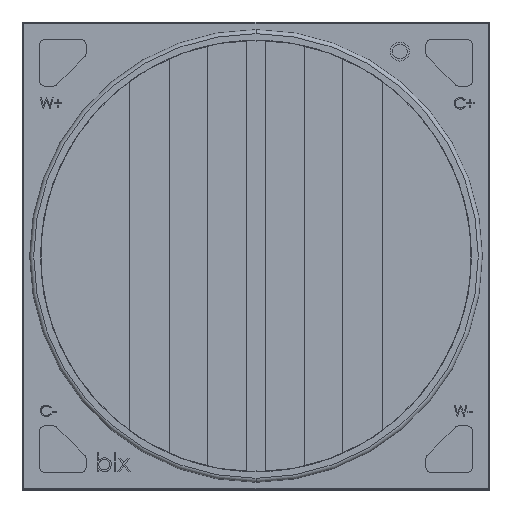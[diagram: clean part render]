
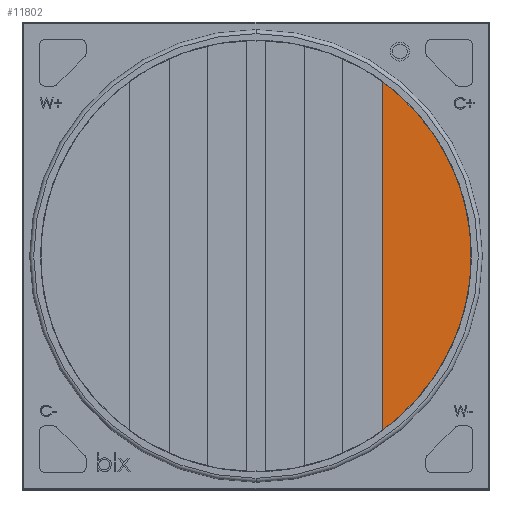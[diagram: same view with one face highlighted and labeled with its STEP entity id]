
A CAD part, top view. The second image highlights one B-rep face of the part: STEP entity #11802.
In plain terms, the highlighted planar face has unit normal (0, 0, 1).
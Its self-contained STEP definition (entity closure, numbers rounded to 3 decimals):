
#95 = CARTESIAN_POINT ( 'NONE',  ( 8.68, 11.947, 1.545 ) ) ;
#2584 = AXIS2_PLACEMENT_3D ( 'NONE', #4660, #9454, #9836 ) ;
#3580 = FACE_OUTER_BOUND ( 'NONE', #11175, .T. ) ;
#3772 = DIRECTION ( 'NONE',  ( 0., -1., 0. ) ) ;
#4660 = CARTESIAN_POINT ( 'NONE',  ( 0., 0., 1.545 ) ) ;
#7663 = AXIS2_PLACEMENT_3D ( 'NONE', #9122, #13012, #11890 ) ;
#7745 = VERTEX_POINT ( 'NONE', #12323 ) ;
#8284 = CIRCLE ( 'NONE', #2584, 14.768 ) ;
#8317 = LINE ( 'NONE', #8391, #13350 ) ;
#8391 = CARTESIAN_POINT ( 'NONE',  ( 8.68, 15.727, 1.545 ) ) ;
#9122 = CARTESIAN_POINT ( 'NONE',  ( 0., 0., 1.545 ) ) ;
#9454 = DIRECTION ( 'NONE',  ( 0., 0., 1. ) ) ;
#9836 = DIRECTION ( 'NONE',  ( 0., 1., 0. ) ) ;
#10167 = ORIENTED_EDGE ( 'NONE', *, *, #13268, .T. ) ;
#10694 = VERTEX_POINT ( 'NONE', #95 ) ;
#10932 = PLANE ( 'NONE',  #7663 ) ;
#11175 = EDGE_LOOP ( 'NONE', ( #10167, #12638 ) ) ;
#11802 = ADVANCED_FACE ( 'NONE', ( #3580 ), #10932, .T. ) ;
#11890 = DIRECTION ( 'NONE',  ( 0., -1., 0. ) ) ;
#12323 = CARTESIAN_POINT ( 'NONE',  ( 8.68, -11.947, 1.545 ) ) ;
#12638 = ORIENTED_EDGE ( 'NONE', *, *, #12641, .T. ) ;
#12641 = EDGE_CURVE ( 'NONE', #10694, #7745, #8317, .T. ) ;
#13012 = DIRECTION ( 'NONE',  ( 0., 0., 1. ) ) ;
#13268 = EDGE_CURVE ( 'NONE', #7745, #10694, #8284, .T. ) ;
#13350 = VECTOR ( 'NONE', #3772, 1000. ) ;
